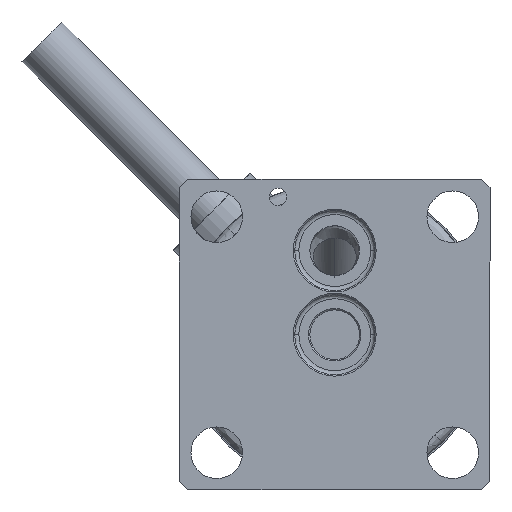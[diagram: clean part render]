
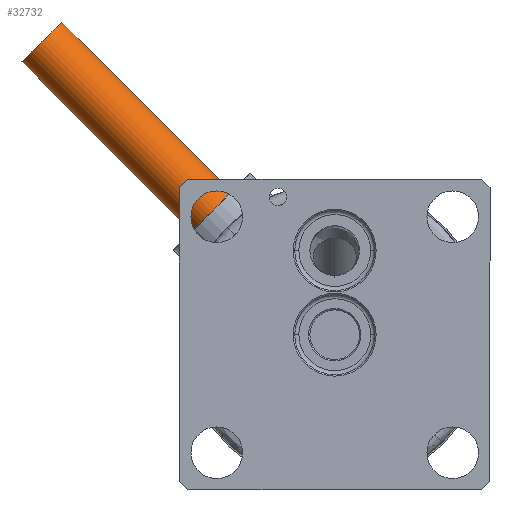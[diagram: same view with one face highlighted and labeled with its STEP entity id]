
A CAD part, front view. The second image highlights one B-rep face of the part: STEP entity #32732.
In plain terms, the highlighted cylindrical face has radius 2.6 mm (diameter 5.2 mm), a partial arc.
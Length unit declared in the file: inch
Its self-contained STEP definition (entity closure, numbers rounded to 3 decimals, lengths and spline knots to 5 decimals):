
#416 = ORIENTED_EDGE ( 'NONE', *, *, #29305, .T. ) ;
#3483 = DIRECTION ( 'NONE',  ( 0., 0., -1. ) ) ;
#3576 = LINE ( 'NONE', #15789, #28878 ) ;
#3666 = VERTEX_POINT ( 'NONE', #14866 ) ;
#5791 = CIRCLE ( 'NONE', #31420, 0.10236 ) ;
#7430 = EDGE_LOOP ( 'NONE', ( #38120, #31930, #34236, #416 ) ) ;
#7681 = EDGE_CURVE ( 'NONE', #3666, #17799, #3576, .T. ) ;
#12411 = CARTESIAN_POINT ( 'NONE',  ( 0.69685, 0., 0. ) ) ;
#12991 = DIRECTION ( 'NONE',  ( 0., 0., -1. ) ) ;
#14772 = DIRECTION ( 'NONE',  ( 0., 0., 1. ) ) ;
#14866 = CARTESIAN_POINT ( 'NONE',  ( 0.90157, 0., 2.00636 ) ) ;
#15472 = AXIS2_PLACEMENT_3D ( 'NONE', #34559, #3483, #34179 ) ;
#15782 = VERTEX_POINT ( 'NONE', #30419 ) ;
#15789 = CARTESIAN_POINT ( 'NONE',  ( 0.90157, 0., 0. ) ) ;
#16622 = EDGE_CURVE ( 'NONE', #15782, #37399, #21626, .T. ) ;
#17623 = DIRECTION ( 'NONE',  ( -1., 0., 0. ) ) ;
#17799 = VERTEX_POINT ( 'NONE', #28309 ) ;
#18171 = CARTESIAN_POINT ( 'NONE',  ( 0.79921, 0., 2.00636 ) ) ;
#18497 = FACE_OUTER_BOUND ( 'NONE', #7430, .T. ) ;
#21626 = LINE ( 'NONE', #12411, #31769 ) ;
#21837 = DIRECTION ( 'NONE',  ( 0., 0., -1. ) ) ;
#23866 = DIRECTION ( 'NONE',  ( 0., 0., 1. ) ) ;
#26135 = CARTESIAN_POINT ( 'NONE',  ( 0.69685, 0., 0.9788 ) ) ;
#27757 = CYLINDRICAL_SURFACE ( 'NONE', #15472, 0.10236 ) ;
#28309 = CARTESIAN_POINT ( 'NONE',  ( 0.90157, 0., 0.9788 ) ) ;
#28508 = EDGE_CURVE ( 'NONE', #15782, #3666, #37797, .T. ) ;
#28878 = VECTOR ( 'NONE', #12991, 39.37008 ) ;
#29305 = EDGE_CURVE ( 'NONE', #37399, #17799, #5791, .T. ) ;
#30419 = CARTESIAN_POINT ( 'NONE',  ( 0.69685, 0., 2.00636 ) ) ;
#31420 = AXIS2_PLACEMENT_3D ( 'NONE', #39507, #23866, #17623 ) ;
#31769 = VECTOR ( 'NONE', #21837, 39.37008 ) ;
#31930 = ORIENTED_EDGE ( 'NONE', *, *, #28508, .F. ) ;
#32732 = ADVANCED_FACE ( 'NONE', ( #18497 ), #27757, .T. ) ;
#34179 = DIRECTION ( 'NONE',  ( -1., 0., 0. ) ) ;
#34236 = ORIENTED_EDGE ( 'NONE', *, *, #16622, .T. ) ;
#34559 = CARTESIAN_POINT ( 'NONE',  ( 0.79921, 0., 0. ) ) ;
#35209 = AXIS2_PLACEMENT_3D ( 'NONE', #18171, #14772, #39256 ) ;
#37399 = VERTEX_POINT ( 'NONE', #26135 ) ;
#37797 = CIRCLE ( 'NONE', #35209, 0.10236 ) ;
#38120 = ORIENTED_EDGE ( 'NONE', *, *, #7681, .F. ) ;
#39256 = DIRECTION ( 'NONE',  ( 0., 1., 0. ) ) ;
#39507 = CARTESIAN_POINT ( 'NONE',  ( 0.79921, 0., 0.9788 ) ) ;
